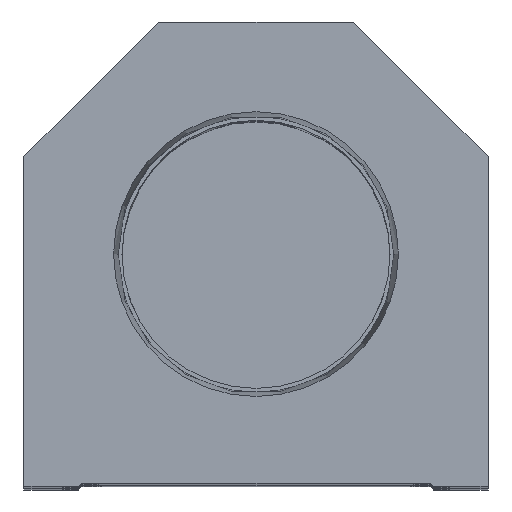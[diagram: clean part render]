
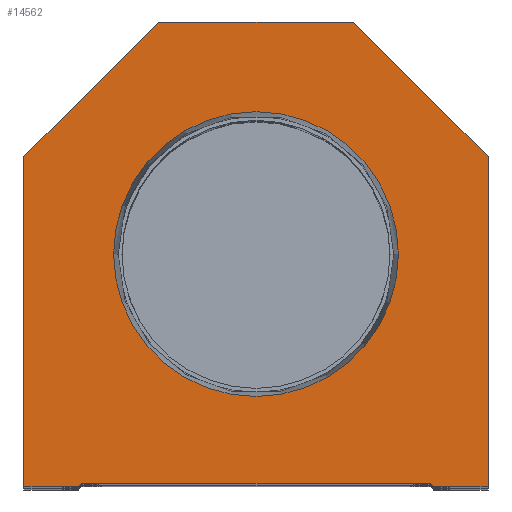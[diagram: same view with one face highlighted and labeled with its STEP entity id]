
A CAD part, top view. The second image highlights one B-rep face of the part: STEP entity #14562.
In plain terms, the highlighted planar face has unit normal (0, 0, 1).
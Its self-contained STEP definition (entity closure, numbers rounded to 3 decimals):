
#130 = ORIENTED_EDGE ( 'NONE', *, *, #19701, .T. ) ;
#873 = PLANE ( 'NONE',  #25389 ) ;
#950 = VECTOR ( 'NONE', #10256, 1000. ) ;
#987 = CARTESIAN_POINT ( 'NONE',  ( -38.1, 0., 0. ) ) ;
#1301 = VERTEX_POINT ( 'NONE', #6435 ) ;
#1379 = VERTEX_POINT ( 'NONE', #22824 ) ;
#2218 = ORIENTED_EDGE ( 'NONE', *, *, #12099, .T. ) ;
#2543 = VECTOR ( 'NONE', #3594, 1000. ) ;
#2617 = LINE ( 'NONE', #22051, #17277 ) ;
#2935 = VECTOR ( 'NONE', #11156, 1000. ) ;
#3370 = CARTESIAN_POINT ( 'NONE',  ( -38.1, 54.1, 0. ) ) ;
#3407 = ORIENTED_EDGE ( 'NONE', *, *, #8440, .T. ) ;
#3581 = ORIENTED_EDGE ( 'NONE', *, *, #10006, .T. ) ;
#3594 = DIRECTION ( 'NONE',  ( -0.707, 0.707, 0. ) ) ;
#3632 = CARTESIAN_POINT ( 'NONE',  ( -28.6, 0.5, 0. ) ) ;
#3929 = DIRECTION ( 'NONE',  ( 0.707, -0.707, 0. ) ) ;
#4068 = CARTESIAN_POINT ( 'NONE',  ( 14.55, 14.55, 0. ) ) ;
#4617 = ORIENTED_EDGE ( 'NONE', *, *, #22889, .T. ) ;
#4827 = CARTESIAN_POINT ( 'NONE',  ( 38.1, 0., 0. ) ) ;
#4943 = ORIENTED_EDGE ( 'NONE', *, *, #20225, .T. ) ;
#5236 = LINE ( 'NONE', #12866, #2935 ) ;
#5332 = DIRECTION ( 'NONE',  ( 0., 0., 1. ) ) ;
#5387 = CARTESIAN_POINT ( 'NONE',  ( 29.1, 0., 0. ) ) ;
#6208 = CARTESIAN_POINT ( 'NONE',  ( 16., 76.2, 0. ) ) ;
#6435 = CARTESIAN_POINT ( 'NONE',  ( -23.374, 38.1, 0. ) ) ;
#6685 = VERTEX_POINT ( 'NONE', #19058 ) ;
#6699 = VECTOR ( 'NONE', #14880, 1000. ) ;
#7200 = LINE ( 'NONE', #4827, #22235 ) ;
#7289 = AXIS2_PLACEMENT_3D ( 'NONE', #23312, #5332, #21339 ) ;
#8440 = EDGE_CURVE ( 'NONE', #20759, #1379, #25005, .T. ) ;
#8641 = VERTEX_POINT ( 'NONE', #19482 ) ;
#8993 = CARTESIAN_POINT ( 'NONE',  ( 28.6, 0., 0. ) ) ;
#9102 = CARTESIAN_POINT ( 'NONE',  ( 23.374, 38.1, 0. ) ) ;
#9229 = EDGE_LOOP ( 'NONE', ( #14053, #20061 ) ) ;
#10006 = EDGE_CURVE ( 'NONE', #6685, #24211, #19125, .T. ) ;
#10053 = VERTEX_POINT ( 'NONE', #11504 ) ;
#10256 = DIRECTION ( 'NONE',  ( -1., 0., 0. ) ) ;
#10432 = DIRECTION ( 'NONE',  ( 0., 0., 1. ) ) ;
#10622 = DIRECTION ( 'NONE',  ( 1., 0., 0. ) ) ;
#10735 = DIRECTION ( 'NONE',  ( 0., 1., 0. ) ) ;
#10830 = FACE_BOUND ( 'NONE', #9229, .T. ) ;
#11156 = DIRECTION ( 'NONE',  ( 0., -1., 0. ) ) ;
#11504 = CARTESIAN_POINT ( 'NONE',  ( 16., 76.2, 0. ) ) ;
#11537 = EDGE_LOOP ( 'NONE', ( #22925, #23666, #130, #22247, #3407, #19189, #2218, #4617, #3581, #4943 ) ) ;
#11769 = DIRECTION ( 'NONE',  ( 0.707, 0.707, 0. ) ) ;
#12098 = LINE ( 'NONE', #23674, #2543 ) ;
#12099 = EDGE_CURVE ( 'NONE', #15345, #10053, #12098, .T. ) ;
#12485 = VECTOR ( 'NONE', #24872, 1000. ) ;
#12657 = LINE ( 'NONE', #18690, #6699 ) ;
#12866 = CARTESIAN_POINT ( 'NONE',  ( -38.1, 0., 0. ) ) ;
#14053 = ORIENTED_EDGE ( 'NONE', *, *, #22810, .F. ) ;
#14388 = EDGE_CURVE ( 'NONE', #8641, #24382, #21998, .T. ) ;
#14548 = LINE ( 'NONE', #4068, #16626 ) ;
#14562 = ADVANCED_FACE ( 'NONE', ( #10830, #18843 ), #873, .T. ) ;
#14880 = DIRECTION ( 'NONE',  ( 1., 0., 0. ) ) ;
#14948 = EDGE_CURVE ( 'NONE', #16144, #20759, #14548, .T. ) ;
#15345 = VERTEX_POINT ( 'NONE', #18711 ) ;
#15655 = VERTEX_POINT ( 'NONE', #9102 ) ;
#15783 = CARTESIAN_POINT ( 'NONE',  ( 0., 38.1, 0. ) ) ;
#16053 = LINE ( 'NONE', #6208, #950 ) ;
#16144 = VERTEX_POINT ( 'NONE', #19229 ) ;
#16626 = VECTOR ( 'NONE', #3929, 1000. ) ;
#17172 = DIRECTION ( 'NONE',  ( -0.707, -0.707, 0. ) ) ;
#17277 = VECTOR ( 'NONE', #10622, 1000. ) ;
#18690 = CARTESIAN_POINT ( 'NONE',  ( -28.6, 0.5, 0. ) ) ;
#18711 = CARTESIAN_POINT ( 'NONE',  ( 38.1, 54.1, 0. ) ) ;
#18779 = VECTOR ( 'NONE', #17172, 1000. ) ;
#18843 = FACE_OUTER_BOUND ( 'NONE', #11537, .T. ) ;
#19058 = CARTESIAN_POINT ( 'NONE',  ( -16., 76.2, 0. ) ) ;
#19125 = LINE ( 'NONE', #23183, #18779 ) ;
#19189 = ORIENTED_EDGE ( 'NONE', *, *, #20646, .T. ) ;
#19229 = CARTESIAN_POINT ( 'NONE',  ( 28.6, 0.5, 0. ) ) ;
#19482 = CARTESIAN_POINT ( 'NONE',  ( -29.1, 0., 0. ) ) ;
#19701 = EDGE_CURVE ( 'NONE', #24382, #16144, #12657, .T. ) ;
#19804 = CIRCLE ( 'NONE', #23986, 23.374 ) ;
#20061 = ORIENTED_EDGE ( 'NONE', *, *, #23609, .F. ) ;
#20225 = EDGE_CURVE ( 'NONE', #24211, #24771, #5236, .T. ) ;
#20362 = VECTOR ( 'NONE', #11769, 1000. ) ;
#20425 = CARTESIAN_POINT ( 'NONE',  ( 0., 0., 0. ) ) ;
#20646 = EDGE_CURVE ( 'NONE', #1379, #15345, #7200, .T. ) ;
#20759 = VERTEX_POINT ( 'NONE', #5387 ) ;
#21339 = DIRECTION ( 'NONE',  ( 1., 0., 0. ) ) ;
#21735 = CARTESIAN_POINT ( 'NONE',  ( -14.55, 14.55, 0. ) ) ;
#21758 = EDGE_CURVE ( 'NONE', #24771, #8641, #2617, .T. ) ;
#21998 = LINE ( 'NONE', #21735, #20362 ) ;
#22051 = CARTESIAN_POINT ( 'NONE',  ( -28.6, 0., 0. ) ) ;
#22235 = VECTOR ( 'NONE', #10735, 1000. ) ;
#22247 = ORIENTED_EDGE ( 'NONE', *, *, #14948, .T. ) ;
#22810 = EDGE_CURVE ( 'NONE', #15655, #1301, #19804, .T. ) ;
#22824 = CARTESIAN_POINT ( 'NONE',  ( 38.1, 0., 0. ) ) ;
#22889 = EDGE_CURVE ( 'NONE', #10053, #6685, #16053, .T. ) ;
#22925 = ORIENTED_EDGE ( 'NONE', *, *, #21758, .T. ) ;
#23183 = CARTESIAN_POINT ( 'NONE',  ( -38.1, 54.1, 0. ) ) ;
#23312 = CARTESIAN_POINT ( 'NONE',  ( 0., 38.1, 0. ) ) ;
#23609 = EDGE_CURVE ( 'NONE', #1301, #15655, #24890, .T. ) ;
#23666 = ORIENTED_EDGE ( 'NONE', *, *, #14388, .T. ) ;
#23674 = CARTESIAN_POINT ( 'NONE',  ( 38.1, 54.1, 0. ) ) ;
#23804 = DIRECTION ( 'NONE',  ( 0., 0., 1. ) ) ;
#23986 = AXIS2_PLACEMENT_3D ( 'NONE', #15783, #23804, #24054 ) ;
#24054 = DIRECTION ( 'NONE',  ( 1., 0., 0. ) ) ;
#24211 = VERTEX_POINT ( 'NONE', #3370 ) ;
#24382 = VERTEX_POINT ( 'NONE', #3632 ) ;
#24492 = DIRECTION ( 'NONE',  ( 1., 0., 0. ) ) ;
#24771 = VERTEX_POINT ( 'NONE', #987 ) ;
#24872 = DIRECTION ( 'NONE',  ( 1., 0., 0. ) ) ;
#24890 = CIRCLE ( 'NONE', #7289, 23.374 ) ;
#25005 = LINE ( 'NONE', #8993, #12485 ) ;
#25389 = AXIS2_PLACEMENT_3D ( 'NONE', #20425, #10432, #24492 ) ;
